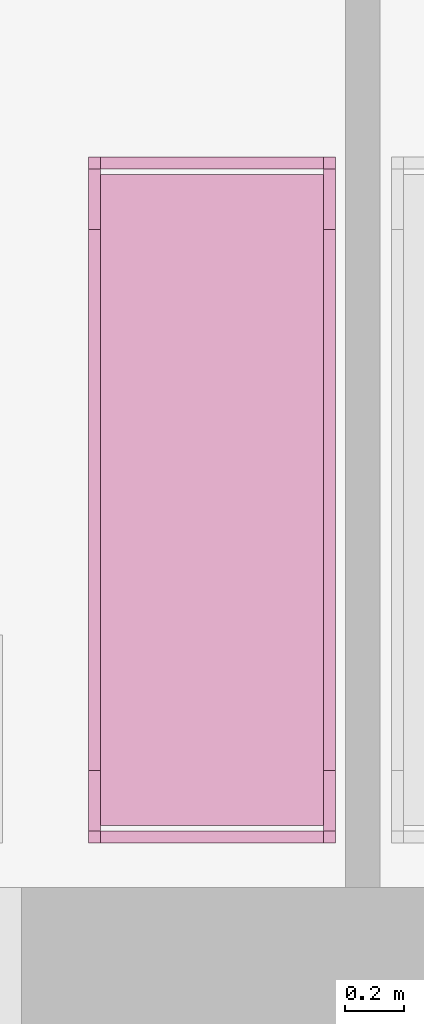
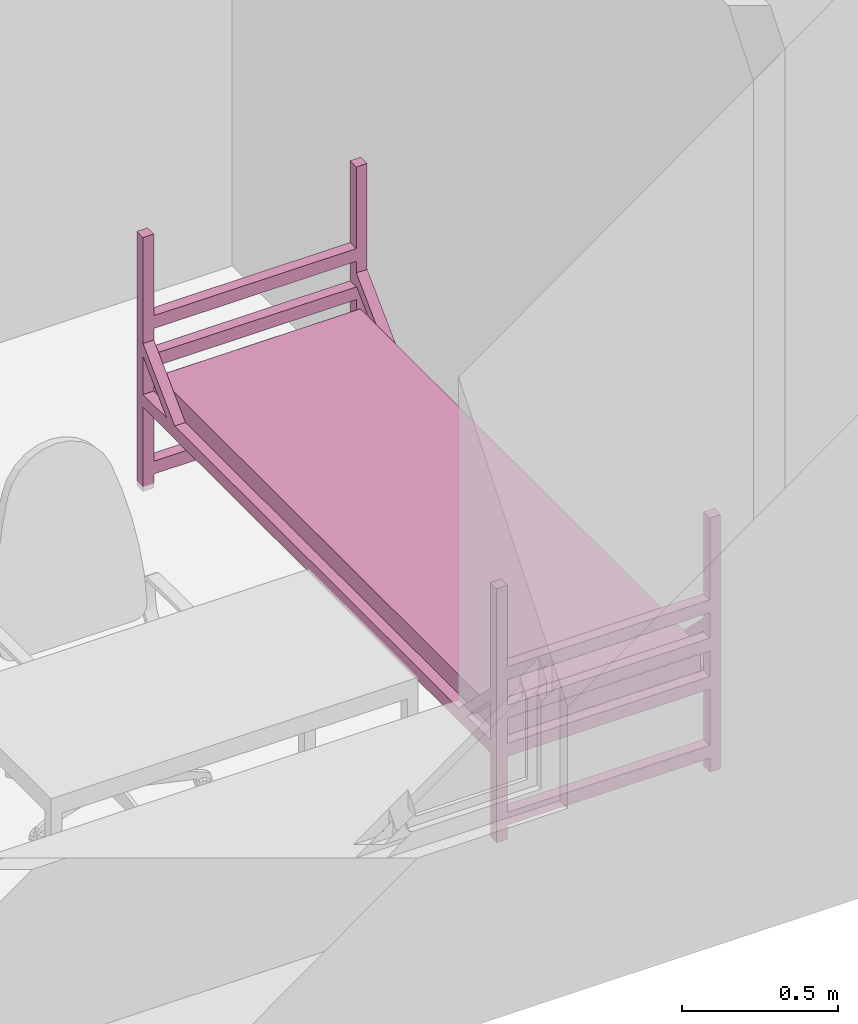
# One storey, part 32 of 48: 1 furnishing.
"""IFC2X3 building model written with IfcOpenShell, lengths in millimetres."""

from ifc_helpers import new_model, entity, si_unit, converted_unit, derived_unit, direction, frame, frame_2d, origin, place, context, subcontext, project, spatial, polyline, circle_curve, parameter, trimmed, segment, composite_curve, rectangle, outline, extrude, source, transform, mapped, material, type_object, type_shapes, element, save


model = new_model("IFC2X3")

# Units and contexts
model_context = context("Model", 3, precision=0.01, world=origin(), true_north=direction((6.12303176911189e-17, 1.0)))
body_context = subcontext(model_context, "Body", "Model", "MODEL_VIEW")
ifc_project = project(units=[si_unit("LENGTHUNIT", "METRE", prefix="MILLI"), si_unit("AREAUNIT", "SQUARE_METRE"), si_unit("VOLUMEUNIT", "CUBIC_METRE"), converted_unit("PLANEANGLEUNIT", "DEGREE", entity("IfcRatioMeasure", 0.0174532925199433), si_unit("PLANEANGLEUNIT", "RADIAN"), dimensions=[0, 0, 0, 0, 0, 0, 0]), si_unit("MASSUNIT", "GRAM", prefix="KILO"), derived_unit("MASSDENSITYUNIT", [(si_unit("MASSUNIT", "GRAM", prefix="KILO"), 1), (si_unit("LENGTHUNIT", "METRE"), -3)]), si_unit("TIMEUNIT", "SECOND"), si_unit("FREQUENCYUNIT", "HERTZ"), si_unit("THERMODYNAMICTEMPERATUREUNIT", "DEGREE_CELSIUS"), derived_unit("THERMALTRANSMITTANCEUNIT", [(si_unit("MASSUNIT", "GRAM", prefix="KILO"), 1), (si_unit("THERMODYNAMICTEMPERATUREUNIT", "KELVIN"), -1), (si_unit("TIMEUNIT", "SECOND"), -3)]), derived_unit("VOLUMETRICFLOWRATEUNIT", [(si_unit("LENGTHUNIT", "METRE"), 3), (si_unit("TIMEUNIT", "SECOND"), -1)]), si_unit("ELECTRICCURRENTUNIT", "AMPERE"), si_unit("ELECTRICVOLTAGEUNIT", "VOLT"), si_unit("POWERUNIT", "WATT"), si_unit("FORCEUNIT", "NEWTON", prefix="KILO"), si_unit("ILLUMINANCEUNIT", "LUX"), si_unit("LUMINOUSFLUXUNIT", "LUMEN"), si_unit("LUMINOUSINTENSITYUNIT", "CANDELA"), derived_unit("USERDEFINED", [(si_unit("MASSUNIT", "GRAM", prefix="KILO"), -1), (si_unit("LENGTHUNIT", "METRE"), -2), (si_unit("TIMEUNIT", "SECOND"), 3), (si_unit("LUMINOUSFLUXUNIT", "LUMEN"), 1)]), derived_unit("LINEARVELOCITYUNIT", [(si_unit("LENGTHUNIT", "METRE"), 1), (si_unit("TIMEUNIT", "SECOND"), -1)]), si_unit("PRESSUREUNIT", "PASCAL"), derived_unit("USERDEFINED", [(si_unit("LENGTHUNIT", "METRE"), -2), (si_unit("MASSUNIT", "GRAM", prefix="KILO"), 1), (si_unit("TIMEUNIT", "SECOND"), -2)]), derived_unit("LINEARFORCEUNIT", [(si_unit("MASSUNIT", "GRAM", prefix="KILO"), 1), (si_unit("LENGTHUNIT", "METRE"), 1), (si_unit("TIMEUNIT", "SECOND"), -2), (si_unit("LENGTHUNIT", "METRE"), -1)]), derived_unit("PLANARFORCEUNIT", [(si_unit("MASSUNIT", "GRAM", prefix="KILO"), 1), (si_unit("LENGTHUNIT", "METRE"), 1), (si_unit("TIMEUNIT", "SECOND"), -2), (si_unit("LENGTHUNIT", "METRE"), -2)])], contexts=[model_context])

# Site, building, storey, space
site_placement = place(None, origin())
site = spatial("IfcSite", under=ifc_project, at=site_placement, Name="Default", CompositionType="ELEMENT")
building_placement = place(site_placement, origin())
building = spatial("IfcBuilding", under=site, at=building_placement, Name="SMA ARH", CompositionType="ELEMENT")
storey_placement = place(building_placement, frame((0.0, 0.0, 6600.0)))
storey = spatial("IfcBuildingStorey", under=building, at=storey_placement, Name="3 Korrus", CompositionType="ELEMENT", Elevation=6599.99999999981)
space_placement = place(storey_placement, origin())
space = spatial("IfcSpace", under=storey, at=space_placement, Name="3-8", CompositionType="ELEMENT", InteriorOrExteriorSpace="INTERNAL")

# Furnishing
ifc_material = material(Name="Madrats")
furniture_type = type_object("IfcFurnitureType", Name="Kasarmu voodi ühekordne 2308x830:Kasarmu voodi ühekordne 2308x830", material=ifc_material)
shared_shape = source(origin(), body_context, "Body", "SweptSolid", [
    extrude(rectangle(XDim=39.9999999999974, YDim=750.000000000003, at=frame_2d((-1.35003119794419e-13, -2.8421709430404e-14), x_axis=(1.0, 0.0))), frame((1.68638457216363, -1226.7969571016, 55.0), z_axis=(0.0, 0.0, 1.0), x_axis=(0.0, -1.0, 0.0)), (0.0, 0.0, 1.0), 49.9999999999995),
    extrude(rectangle(XDim=39.9999999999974, YDim=750.000000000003, at=frame_2d((-1.35003119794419e-13, -2.8421709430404e-14), x_axis=(1.0, 0.0))), frame((1.68638457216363, -1226.7969571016, 325.0), z_axis=(0.0, 0.0, 1.0), x_axis=(0.0, -1.0, 0.0)), (0.0, 0.0, 1.0), 49.9999999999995),
    extrude(rectangle(XDim=39.9999999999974, YDim=750.000000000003, at=frame_2d((-1.35003119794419e-13, -2.8421709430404e-14), x_axis=(1.0, 0.0))), frame((1.68638457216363, -1226.7969571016, 475.0), z_axis=(0.0, 0.0, 1.0), x_axis=(0.0, -1.0, 0.0)), (0.0, 0.0, 1.0), 49.9999999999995),
    extrude(rectangle(XDim=39.9999999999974, YDim=750.000000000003, at=frame_2d((-1.35003119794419e-13, -2.8421709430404e-14), x_axis=(1.0, 0.0))), frame((1.68638457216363, -1226.7969571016, 625.0), z_axis=(0.0, 0.0, 1.0), x_axis=(0.0, -1.0, 0.0)), (0.0, 0.0, 1.0), 50.0000000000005),
    extrude(rectangle(XDim=39.9999999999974, YDim=750.000000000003, at=frame_2d((1.35003119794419e-13, -2.8421709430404e-14), x_axis=(1.0, 0.0))), frame((1.68638457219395, 1041.2030428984, 55.0), z_axis=(0.0, 0.0, 1.0), x_axis=(0.0, -1.0, 0.0)), (0.0, 0.0, 1.0), 50.0000000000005),
    extrude(rectangle(XDim=39.9999999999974, YDim=750.000000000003, at=frame_2d((1.35003119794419e-13, -2.8421709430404e-14), x_axis=(1.0, 0.0))), frame((1.68638457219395, 1041.2030428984, 325.0), z_axis=(0.0, 0.0, 1.0), x_axis=(0.0, -1.0, 0.0)), (0.0, 0.0, 1.0), 50.0000000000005),
    extrude(rectangle(XDim=39.9999999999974, YDim=750.000000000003, at=frame_2d((1.35003119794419e-13, -2.8421709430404e-14), x_axis=(1.0, 0.0))), frame((1.68638457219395, 1041.2030428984, 475.0), z_axis=(0.0, 0.0, 1.0), x_axis=(0.0, -1.0, 0.0)), (0.0, 0.0, 1.0), 50.0000000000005),
    extrude(rectangle(XDim=39.9999999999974, YDim=750.000000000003, at=frame_2d((1.35003119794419e-13, -2.8421709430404e-14), x_axis=(1.0, 0.0))), frame((1.68638457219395, 1041.2030428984, 625.0), z_axis=(0.0, 0.0, 1.0), x_axis=(0.0, -1.0, 0.0)), (0.0, 0.0, 1.0), 49.9999999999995),
    extrude(outline(composite_curve([segment(trimmed(circle_curve(frame_2d((1085.0, -40.0), x_axis=(1.0, 0.0)), 10.0), [parameter(270.0)], [parameter(0.0)], True, "PARAMETER"), True, "CONTINUOUS"), segment(polyline([(1095.0, -40.0), (1095.0, 40.0)]), True, "CONTINUOUS"), segment(trimmed(circle_curve(frame_2d((1085.0, 40.0), x_axis=(1.0, 0.0)), 10.0), [parameter(0.0)], [parameter(90.0000000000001)], True, "PARAMETER"), True, "CONTINUOUS"), segment(polyline([(1085.0, 50.0), (-1085.0, 50.0)]), True, "CONTINUOUS"), segment(trimmed(circle_curve(frame_2d((-1085.0, 40.0), x_axis=(1.0, 0.0)), 10.0), [parameter(90.0000000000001)], [parameter(180.0)], True, "PARAMETER"), True, "CONTINUOUS"), segment(polyline([(-1095.0, 40.0), (-1095.0, -40.0)]), True, "CONTINUOUS"), segment(trimmed(circle_curve(frame_2d((-1085.0, -40.0), x_axis=(1.0, 0.0)), 10.0), [parameter(180.0)], [parameter(270.0)], True, "PARAMETER"), True, "CONTINUOUS"), segment(polyline([(-1085.0, -50.0), (1085.0, -50.0)]), True, "CONTINUOUS")], self_intersect=False)), frame((-373.313615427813, -92.7969571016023, 405.0), z_axis=(1.0, 0.0, 0.0), x_axis=(0.0, -1.0, 0.0)), (0.0, 0.0, 1.0), 750.000000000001),
    extrude(outline(polyline([(-1114.0, -100.0), (1114.0, -100.0), (1114.0, -50.0), (961.59199141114, -50.0), (1114.0, 100.0), (1114.0, 150.0), (910.789321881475, -50.0), (-910.789321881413, -50.0), (-1114.0, 150.0), (-1114.0, 100.0), (-961.591991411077, -50.0), (-1114.0, -50.0), (-1114.0, -100.0)])), frame((-413.313615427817, -92.7969571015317, 430.0), z_axis=(1.0, 0.0, 0.0), x_axis=(0.0, 1.0, 0.0)), (0.0, 0.0, 1.0), 39.9999999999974),
    extrude(outline(polyline([(-1114.0, -100.0), (1114.0, -100.0), (1114.0, -50.0), (961.591991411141, -50.0), (1114.0, 100.0), (1114.0, 150.0), (910.789321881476, -50.0), (-910.789321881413, -50.0), (-1114.0, 150.0), (-1114.0, 100.0), (-961.591991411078, -50.0), (-1114.0, -50.0), (-1114.0, -100.0)])), frame((376.686384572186, -92.796957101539, 430.0), z_axis=(1.0, 0.0, 0.0), x_axis=(0.0, 1.0, 0.0)), (0.0, 0.0, 1.0), 39.9999999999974),
    extrude(rectangle(XDim=39.9999999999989, YDim=39.9999999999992, at=frame_2d((-6.75015598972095e-14, 0.0), x_axis=(1.0, 0.0))), frame((396.686384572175, -1226.79695710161, 0.0), z_axis=(0.0, 0.0, 1.0), x_axis=(0.0, 1.0, 0.0)), (0.0, 0.0, 1.0), 995.0),
    extrude(rectangle(XDim=39.9999999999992, YDim=39.9999999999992, at=frame_2d((-1.35003119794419e-13, 0.0), x_axis=(1.0, 0.0))), frame((396.686384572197, 1041.20304289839, 0.0), z_axis=(0.0, 0.0, 1.0), x_axis=(0.0, 1.0, 0.0)), (0.0, 0.0, 1.0), 995.0),
    extrude(rectangle(XDim=40.0000000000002, YDim=39.9999999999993, at=frame_2d((-1.35003119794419e-13, 0.0), x_axis=(1.0, 0.0))), frame((-393.313615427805, 1041.2030428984, 0.0), z_axis=(0.0, 0.0, 1.0), x_axis=(0.0, 1.0, 0.0)), (0.0, 0.0, 1.0), 995.0),
    extrude(rectangle(XDim=39.9999999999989, YDim=39.9999999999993, at=frame_2d((-6.75015598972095e-14, 0.0), x_axis=(1.0, 0.0))), frame((-393.313615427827, -1226.7969571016, 0.0), z_axis=(0.0, 0.0, 1.0), x_axis=(0.0, 1.0, 0.0)), (0.0, 0.0, 1.0), 995.0),
])
type_shapes(furniture_type, [shared_shape])
furnishing_placement = place(space_placement, frame((22820.3136154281, 1396.79695710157, 0.0)))
element("IfcFurnishingElement", 1, at=furnishing_placement, inside=space, type_object=furniture_type, material=ifc_material, Name="Kasarmu voodi ühekordne 2308x830:Kasarmu voodi ühekordne 2308x830", ObjectType="Kasarmu voodi ühekordne 2308x830:Kasarmu voodi ühekordne 2308x830", context=body_context, shape_type="MappedRepresentation", body=[
    mapped(shared_shape, transform((0.0, 0.0, 0.0), scale=1.0)),
])

save(model, "model.ifc")
